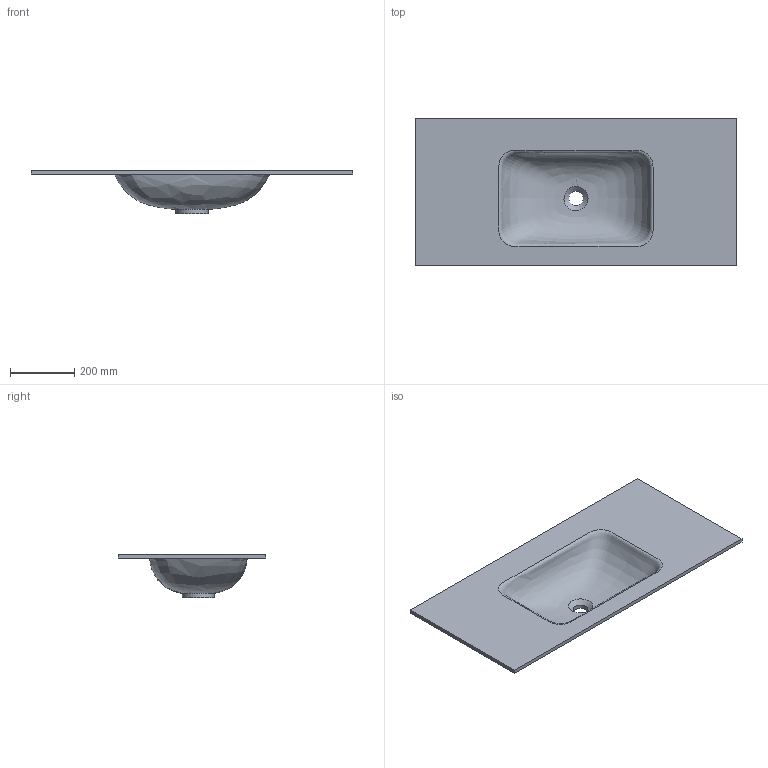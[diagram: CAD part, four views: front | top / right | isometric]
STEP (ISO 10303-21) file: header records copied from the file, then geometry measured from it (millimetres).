
FILE_DESCRIPTION(/* description */ (''),/* implementation_level */ '2;1');
FILE_NAME(/* name */ 'KKR-FGE02.stp',/* time_stamp */ '2025-10-25T10:46:00+08:00',/* author */ (''),/* organization */ (''),/* preprocessor_version */ 'ST-DEVELOPER v20',/* originating_system */ 'SIEMENS PLM Software NX2412.4001',/* authorisation */ '');
FILE_SCHEMA (('AUTOMOTIVE_DESIGN { 1 0 10303 214 3 1 1 1 }'));
Length unit declared in the file: millimetre
Products named in the file (1): KKR-FGE02
Bounding box: 1002 x 460 x 135 mm (x, y, z)
Volume: 6520755.6 mm3; surface area: 1097316.7 mm2
Topology: 1 solids, 1 shells, 12 faces, 26 edges, 19 vertices
Faces by surface type: plane 7, bspline 2, cylinder 2, cone 1
Full cylindrical faces by diameter (mm): 45 x1, 100 x1
Entity records: 18136 total; most frequent: CARTESIAN_POINT 17874, DIRECTION 40, ORIENTED_EDGE 38, EDGE_LOOP 20, EDGE_CURVE 19, FACE_BOUND 16, VERTEX_POINT 15, AXIS2_PLACEMENT_3D 14
